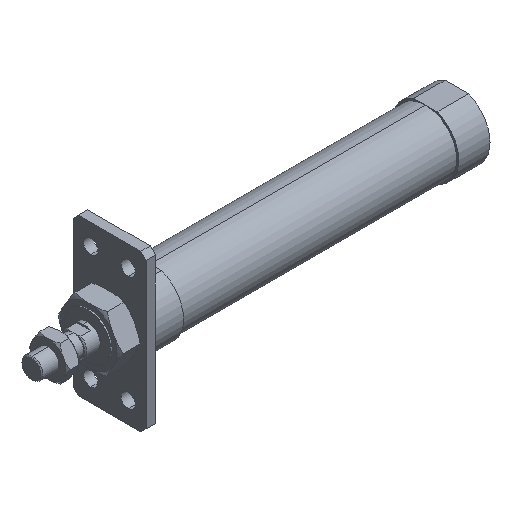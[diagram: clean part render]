
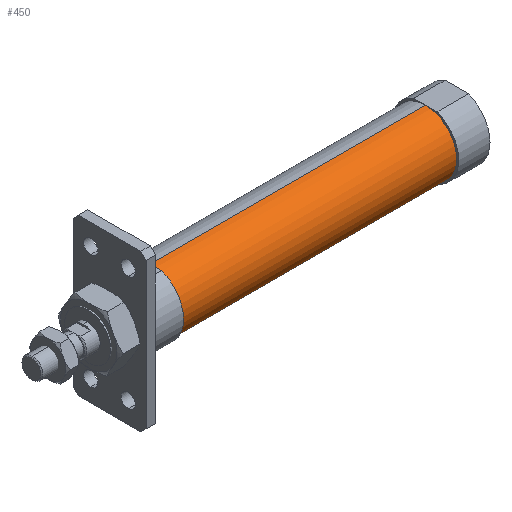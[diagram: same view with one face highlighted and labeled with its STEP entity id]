
A CAD part, isometric view. The second image highlights one B-rep face of the part: STEP entity #450.
In plain terms, the highlighted cylindrical face has radius 15 mm (diameter 30 mm), a partial arc.
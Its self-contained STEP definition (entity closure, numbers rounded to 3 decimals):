
#148 = CYLINDRICAL_SURFACE ( 'NONE', #1617, 15. ) ;
#162 = DIRECTION ( 'NONE',  ( -1., 0., 0. ) ) ;
#282 = VERTEX_POINT ( 'NONE', #2772 ) ;
#404 = CIRCLE ( 'NONE', #2708, 15. ) ;
#450 = ADVANCED_FACE ( 'NONE', ( #3496 ), #148, .T. ) ;
#525 = VERTEX_POINT ( 'NONE', #2031 ) ;
#550 = CARTESIAN_POINT ( 'NONE',  ( -6.469, 0., -15. ) ) ;
#576 = LINE ( 'NONE', #550, #2190 ) ;
#712 = DIRECTION ( 'NONE',  ( 0., 0., 1. ) ) ;
#804 = EDGE_CURVE ( 'NONE', #2054, #1922, #576, .T. ) ;
#807 = CARTESIAN_POINT ( 'NONE',  ( -6.469, 0., 15. ) ) ;
#1194 = CIRCLE ( 'NONE', #3154, 15. ) ;
#1215 = DIRECTION ( 'NONE',  ( -1., 0., 0. ) ) ;
#1242 = CARTESIAN_POINT ( 'NONE',  ( 189., 0., 0. ) ) ;
#1305 = ORIENTED_EDGE ( 'NONE', *, *, #804, .F. ) ;
#1421 = EDGE_LOOP ( 'NONE', ( #1305, #1900, #3700, #2525 ) ) ;
#1425 = EDGE_CURVE ( 'NONE', #1922, #282, #1194, .T. ) ;
#1617 = AXIS2_PLACEMENT_3D ( 'NONE', #3793, #162, #3534 ) ;
#1667 = EDGE_CURVE ( 'NONE', #525, #282, #2658, .T. ) ;
#1900 = ORIENTED_EDGE ( 'NONE', *, *, #2720, .T. ) ;
#1922 = VERTEX_POINT ( 'NONE', #3839 ) ;
#2031 = CARTESIAN_POINT ( 'NONE',  ( 189., 0., 15. ) ) ;
#2054 = VERTEX_POINT ( 'NONE', #2132 ) ;
#2132 = CARTESIAN_POINT ( 'NONE',  ( 189., 0., -15. ) ) ;
#2190 = VECTOR ( 'NONE', #3597, 1000. ) ;
#2299 = DIRECTION ( 'NONE',  ( -1., 0., 0. ) ) ;
#2304 = CARTESIAN_POINT ( 'NONE',  ( 57., 0., 0. ) ) ;
#2525 = ORIENTED_EDGE ( 'NONE', *, *, #1425, .F. ) ;
#2658 = LINE ( 'NONE', #807, #3266 ) ;
#2708 = AXIS2_PLACEMENT_3D ( 'NONE', #1242, #1215, #3355 ) ;
#2720 = EDGE_CURVE ( 'NONE', #2054, #525, #404, .T. ) ;
#2772 = CARTESIAN_POINT ( 'NONE',  ( 57., 0., 15. ) ) ;
#3154 = AXIS2_PLACEMENT_3D ( 'NONE', #2304, #3170, #712 ) ;
#3170 = DIRECTION ( 'NONE',  ( -1., 0., 0. ) ) ;
#3266 = VECTOR ( 'NONE', #2299, 1000. ) ;
#3355 = DIRECTION ( 'NONE',  ( 0., 0., 1. ) ) ;
#3496 = FACE_OUTER_BOUND ( 'NONE', #1421, .T. ) ;
#3534 = DIRECTION ( 'NONE',  ( 0., 0., 1. ) ) ;
#3597 = DIRECTION ( 'NONE',  ( -1., 0., 0. ) ) ;
#3700 = ORIENTED_EDGE ( 'NONE', *, *, #1667, .T. ) ;
#3793 = CARTESIAN_POINT ( 'NONE',  ( -6.469, 0., 0. ) ) ;
#3839 = CARTESIAN_POINT ( 'NONE',  ( 57., 0., -15. ) ) ;
